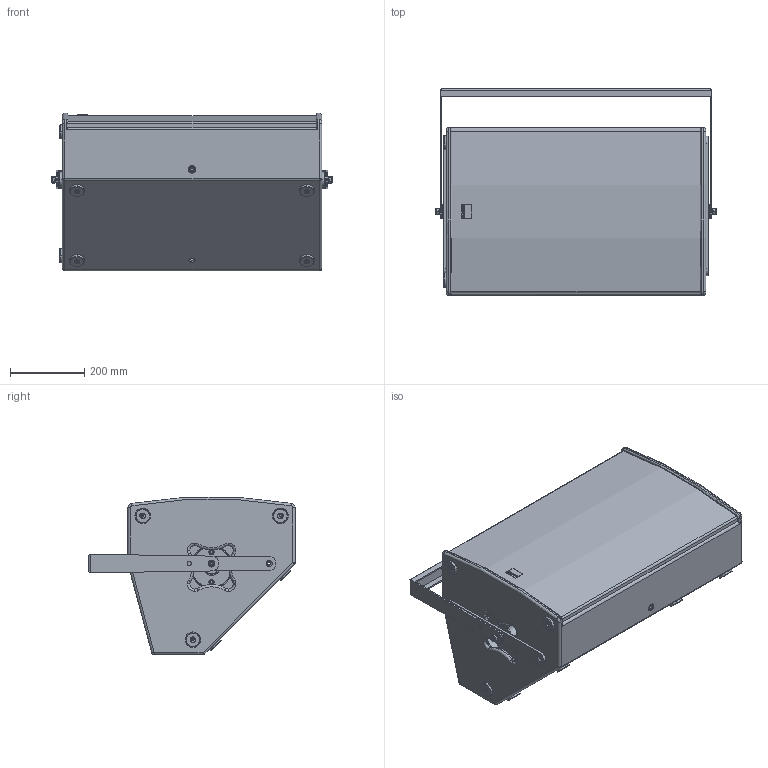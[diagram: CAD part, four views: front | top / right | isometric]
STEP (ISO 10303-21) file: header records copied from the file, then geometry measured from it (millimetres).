
FILE_DESCRIPTION (( 'STEP AP203' ), '1' );
FILE_NAME ('SEEBURG_A8_Bracket-hor.STEP', '2012-09-28T08:15:46', ( 'Fabian' ), ( '' ), 'SwSTEP 2.0', 'SolidWorks 2009', '' );
FILE_SCHEMA (( 'CONFIG_CONTROL_DESIGN' ));
Length unit declared in the file: millimetre
Products named in the file (2): A8_Bracket-hor; SEEBURG_A8_Bracket-hor
Assembly tree (1 placements, depth 2):
  SEEBURG_A8_Bracket-hor
    A8_Bracket-hor
Bounding box: 755.47 x 555 x 422.97 mm (x, y, z)
Surface area: 3672079.9 mm2 (no closed solid volume)
Topology: 0 solids, 33 shells, 971 faces, 2322 edges, 1441 vertices
Faces by surface type: cylinder 405, plane 248, torus 170, cone 97, sphere 45, bspline 6
Entity records: 32734 total; most frequent: CARTESIAN_POINT 9577, DIRECTION 5216, ORIENTED_EDGE 4588, EDGE_CURVE 2298, AXIS2_PLACEMENT_3D 2155, VERTEX_POINT 1429, CIRCLE 1186, EDGE_LOOP 1121
